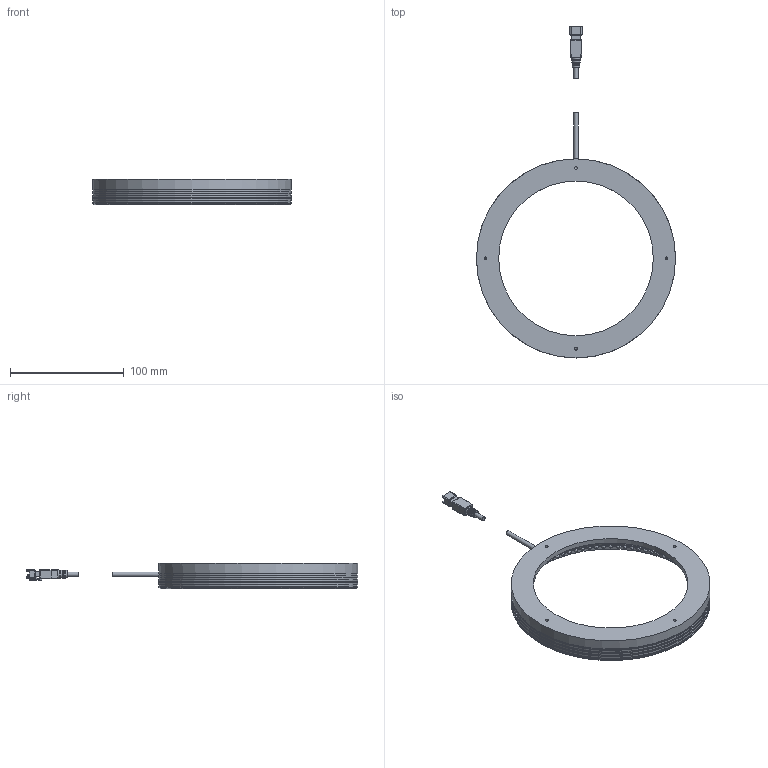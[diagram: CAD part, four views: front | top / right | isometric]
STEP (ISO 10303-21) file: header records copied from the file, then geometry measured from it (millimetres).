
FILE_DESCRIPTION(('STEP AP214'),'1');
FILE_NAME('VLR-75D170.stp','2026-04-10T07:28:45',(' '),(' '),'Spatial InterOp 3D',' ',' ');
FILE_SCHEMA(('AUTOMOTIVE_DESIGN { 1 0 10303 214 1 1 1 1 }'));
Length unit declared in the file: metre
Products named in the file (3): VLR-75D170; Component1; Component2
Assembly tree (2 placements, depth 2):
  VLR-75D170
    Component1
    Component2
Bounding box: 175 x 291.8 x 22 mm (x, y, z)
Volume: 96661.1 mm3; surface area: 59802 mm2
Topology: 2 solids, 2 shells, 1390 faces, 2640 edges, 1743 vertices
Faces by surface type: plane 601, cylinder 529, bspline 244, cone 8, sphere 4, torus 4
Full cylindrical faces by diameter (mm): 2.5 x4, 3.5 x240, 3.9 x2, 4 x240, 136 x1, 167 x1, 174 x3, 175 x5
Entity records: 59887 total; most frequent: CARTESIAN_POINT 22432, DIRECTION 4733, ORIENTED_EDGE 3750, EDGE_LOOP 2633, AXIS2_PLACEMENT_3D 2219, FACE_OUTER_BOUND 2126, EDGE_CURVE 1875, STYLED_ITEM 1784
